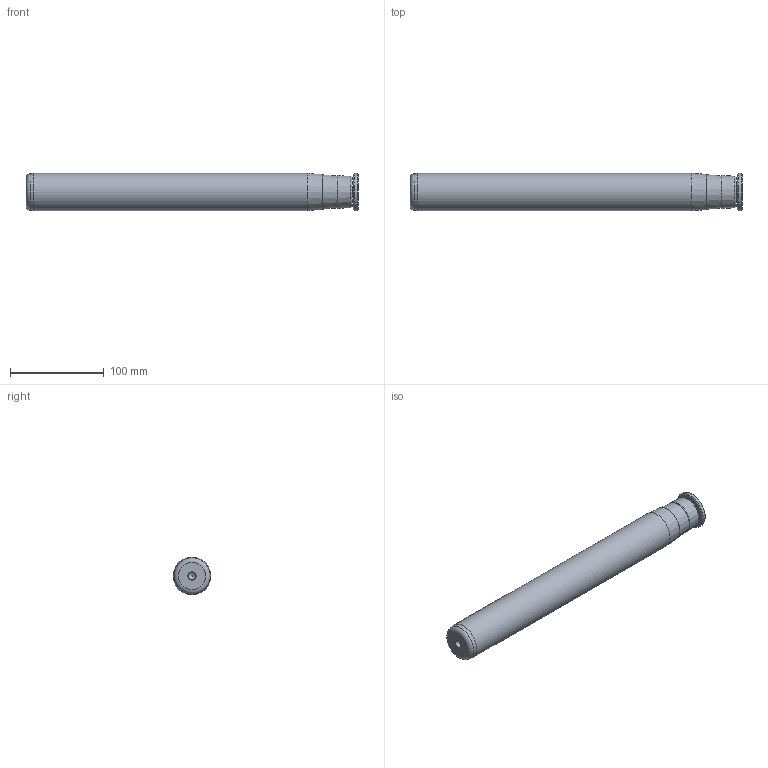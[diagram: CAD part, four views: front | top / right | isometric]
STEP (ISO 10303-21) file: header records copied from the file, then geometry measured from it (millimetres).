
FILE_DESCRIPTION(/* description */ ('Impex Ready, www.impex-ready.pl'),/* implementation_level */ '2;1');
FILE_NAME(/* name */ 'C:\Users\VIKKY\Nextcloud\SM\projekt 10 - części na stronę internetową\Pliki_3D_new\270 Słupy C5A\270_Słupy_C5A_STEP\C5A40315.ipt.step',/* time_stamp */ '2021-12-17T12:31:05+01:00',/* author */ ('SM'),/* organization */ (''),/* preprocessor_version */ 'ST-DEVELOPER v18.1',/* originating_system */ 'Autodesk Inventor 2021',/* authorisation */ '');
FILE_SCHEMA (('AUTOMOTIVE_DESIGN { 1 0 10303 214 3 1 1 }'));
Length unit declared in the file: millimetre
Products named in the file (1): C5A40315
Bounding box: 354 x 40 x 40 mm (x, y, z)
Volume: 430159.9 mm3; surface area: 49903.9 mm2
Topology: 3 solids, 3 shells, 61 faces, 134 edges, 81 vertices
Faces by surface type: plane 32, cone 16, cylinder 7, torus 6
Full cylindrical faces by diameter (mm): 8 x3, 10.5 x1, 15.879 x1, 40 x2
Entity records: 1769 total; most frequent: DIRECTION 309, CARTESIAN_POINT 298, ORIENTED_EDGE 262, EDGE_CURVE 131, AXIS2_PLACEMENT_3D 128, VERTEX_POINT 81, EDGE_LOOP 68, CIRCLE 66
